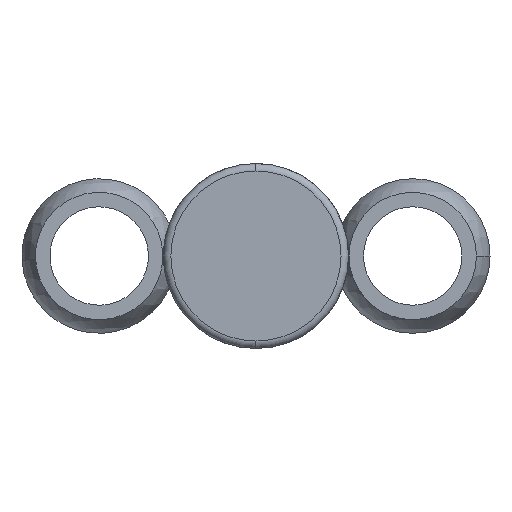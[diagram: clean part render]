
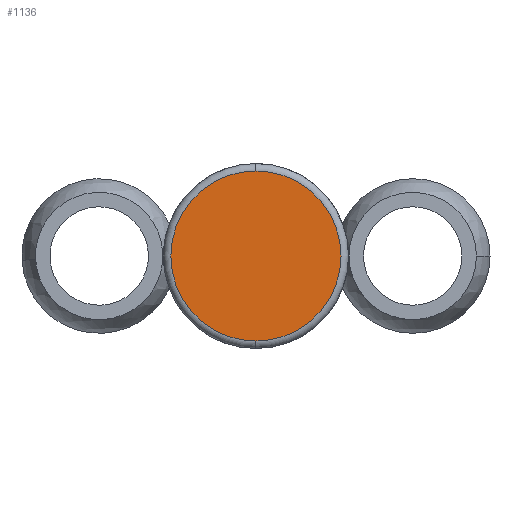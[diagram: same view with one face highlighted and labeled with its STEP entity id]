
A CAD part, front view. The second image highlights one B-rep face of the part: STEP entity #1136.
In plain terms, the highlighted planar face has unit normal (0, -1, 0).
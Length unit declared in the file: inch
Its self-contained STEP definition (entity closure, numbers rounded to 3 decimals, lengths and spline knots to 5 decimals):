
#153 = DIRECTION ( 'NONE',  ( 0., -1., 0. ) ) ;
#199 = CIRCLE ( 'NONE', #1500, 0.34402 ) ;
#200 = DIRECTION ( 'NONE',  ( 0., 1., 0. ) ) ;
#271 = FACE_OUTER_BOUND ( 'NONE', #1555, .T. ) ;
#273 = CARTESIAN_POINT ( 'NONE',  ( 0., -1.26, 0. ) ) ;
#313 = AXIS2_PLACEMENT_3D ( 'NONE', #724, #585, #1437 ) ;
#323 = PLANE ( 'NONE',  #1569 ) ;
#360 = EDGE_CURVE ( 'NONE', #1421, #574, #199, .T. ) ;
#510 = DIRECTION ( 'NONE',  ( 0., 0., 1. ) ) ;
#574 = VERTEX_POINT ( 'NONE', #867 ) ;
#585 = DIRECTION ( 'NONE',  ( 0., -1., 0. ) ) ;
#636 = ORIENTED_EDGE ( 'NONE', *, *, #360, .T. ) ;
#724 = CARTESIAN_POINT ( 'NONE',  ( 0., -1.26, 0. ) ) ;
#829 = CARTESIAN_POINT ( 'NONE',  ( 0., -1.26, 0. ) ) ;
#867 = CARTESIAN_POINT ( 'NONE',  ( 0., -1.26, -0.34402 ) ) ;
#1004 = CIRCLE ( 'NONE', #313, 0.34402 ) ;
#1078 = DIRECTION ( 'NONE',  ( 0., 0., 1. ) ) ;
#1136 = ADVANCED_FACE ( 'NONE', ( #271 ), #323, .F. ) ;
#1342 = ORIENTED_EDGE ( 'NONE', *, *, #1599, .T. ) ;
#1417 = CARTESIAN_POINT ( 'NONE',  ( 0., -1.26, 0.34402 ) ) ;
#1421 = VERTEX_POINT ( 'NONE', #1417 ) ;
#1437 = DIRECTION ( 'NONE',  ( 0., 0., 1. ) ) ;
#1500 = AXIS2_PLACEMENT_3D ( 'NONE', #273, #153, #510 ) ;
#1555 = EDGE_LOOP ( 'NONE', ( #636, #1342 ) ) ;
#1569 = AXIS2_PLACEMENT_3D ( 'NONE', #829, #200, #1078 ) ;
#1599 = EDGE_CURVE ( 'NONE', #574, #1421, #1004, .T. ) ;
